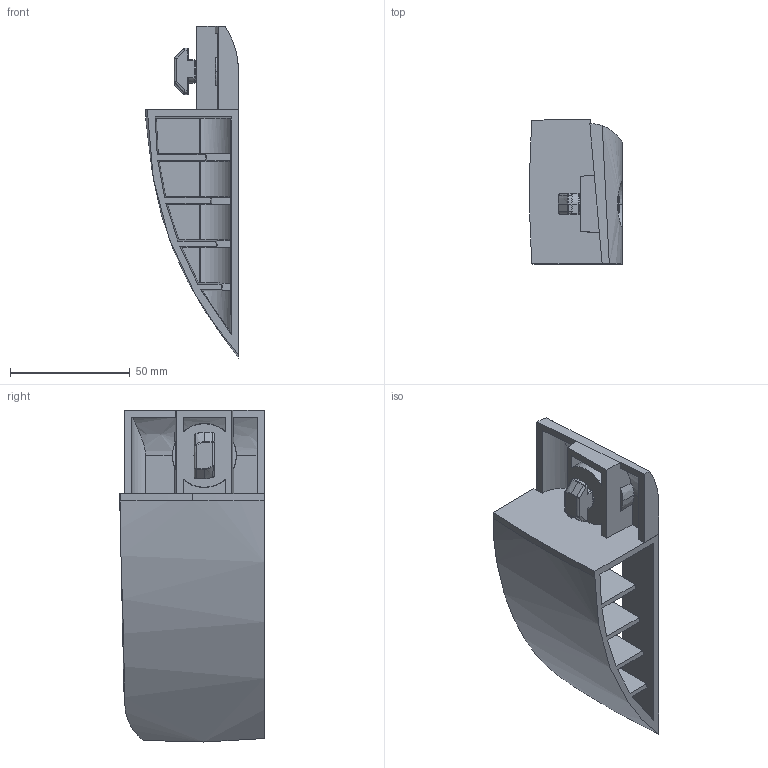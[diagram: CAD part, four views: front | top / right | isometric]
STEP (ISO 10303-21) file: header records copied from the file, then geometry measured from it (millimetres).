
FILE_DESCRIPTION (( 'STEP AP214' ), '1' );
FILE_NAME ('067RCB1COU005.STEP', '2024-09-23T10:54:59', ( '' ), ( '' ), 'SwSTEP 2.0', 'SolidWorks 2023', '' );
FILE_SCHEMA (( 'AUTOMOTIVE_DESIGN' ));
Length unit declared in the file: millimetre
Products named in the file (7): 067RCB1COU005(1); 096HK1030M0820; 4DIN125AM8M; 067RCB1COS006; 067RCB1COU005(2); 067RCB1COU005; 4DIN934M08MS01
Assembly tree (6 placements, depth 4):
  067RCB1COU005
    067RCB1COU005(2)
      067RCB1COU005(1)
        067RCB1COS006
        4DIN125AM8M
        096HK1030M0820
        4DIN934M08MS01
Bounding box: 38.8 x 60.3 x 138.65 mm (x, y, z)
Volume: 75720.5 mm3; surface area: 47913.5 mm2
Topology: 4 solids, 4 shells, 270 faces, 704 edges, 435 vertices
Faces by surface type: plane 124, cylinder 69, bspline 47, cone 30
Entity records: 13299 total; most frequent: CARTESIAN_POINT 7267, ORIENTED_EDGE 1388, DIRECTION 1006, EDGE_CURVE 694, VERTEX_POINT 435, LINE 336, VECTOR 336, AXIS2_PLACEMENT_3D 335
